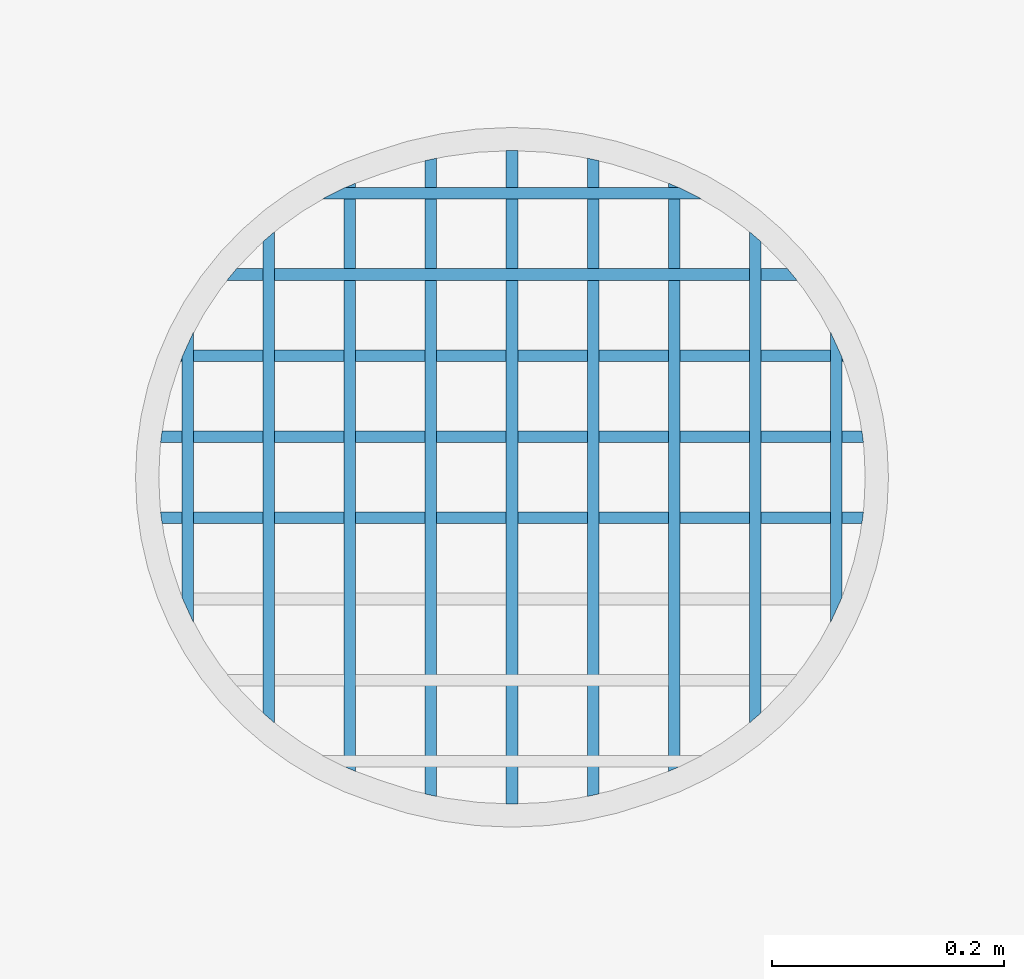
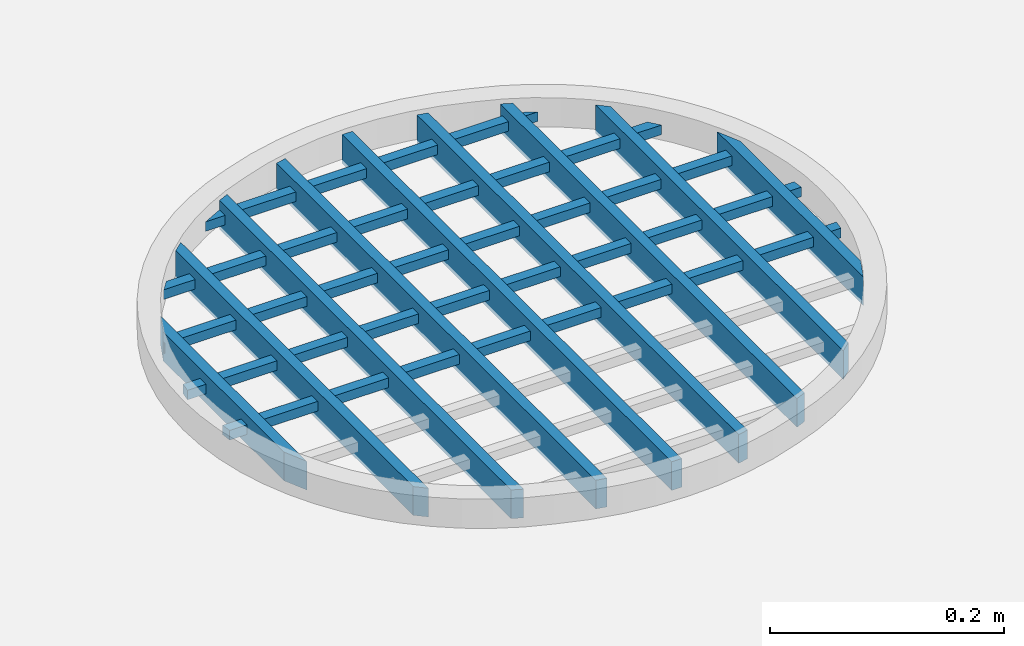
# One storey, part 41 of 133: 14 members, 1 element without a shape of its own.
"""IFC2X3 building model written with IfcOpenShell, lengths in centimetres."""

from ifc_helpers import new_model, entity, si_unit, converted_unit, direction, frame, origin, origin_with_axes, place, context, subcontext, project, spatial, faceted_brep, material, type_object, element, aggregate, save


model = new_model("IFC2X3")

# Units and contexts
model_context = context("Model", 3, precision=0.0001, world=origin(), true_north=direction((0.225632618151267, 0.974212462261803, 0.0)))
body_context = subcontext(model_context, "Body", "Model", "MODEL_VIEW")
ifc_project = project(units=[si_unit("LENGTHUNIT", "METRE", prefix="CENTI"), si_unit("AREAUNIT", "SQUARE_METRE", prefix="CENTI"), si_unit("VOLUMEUNIT", "CUBIC_METRE", prefix="CENTI"), converted_unit("PLANEANGLEUNIT", "DEGREE", entity("IfcRatioMeasure", 0.0174532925), si_unit("PLANEANGLEUNIT", "RADIAN"), dimensions=[0, 0, 0, 0, 0, 0, 0])], contexts=[model_context])

# Site, building, storey
site_placement = place(None, origin_with_axes())
site = spatial("IfcSite", under=ifc_project, at=site_placement, Name="Default Site", CompositionType="ELEMENT")
building_placement = place(site_placement, origin_with_axes())
building = spatial("IfcBuilding", under=site, at=building_placement, Name="Default Building", CompositionType="ELEMENT")
storey_placement = place(building_placement, frame((0.0, 0.0, -291.400371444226), z_axis=(0.0, 0.0, 1.0), x_axis=(1.0, 0.0, 0.0)))
storey = spatial("IfcBuildingStorey", under=building, at=storey_placement, Name="Rez-de-Jardin", CompositionType="ELEMENT", Elevation=-291.400371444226)

# Assembly, members
building_element_proxy_type = type_object("IfcBuildingElementProxyType", Name="Type Object", PredefinedType="NOTDEFINED")
assembly_placement = place(storey_placement, frame((507.608740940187, -1215.27016189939, 0.999999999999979), z_axis=(0.0, -1.0, -9.43689570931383e-16), x_axis=(1.0, 0.0, 0.0)))
assembly = element("IfcElementAssembly", 1, at=assembly_placement, inside=storey, type_object=building_element_proxy_type, Name="Panneau 294722", ObjectType="Precast panel", PredefinedType="USERDEFINED")
ifc_material = material(Name="Acier")
member_1_placement = place(assembly_placement, frame((62.8172218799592, 0.499999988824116, 33.1905782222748), z_axis=(0.9918400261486, -1.77089569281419e-21, 0.127488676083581), x_axis=(0.127488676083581, -9.35989088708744e-16, -0.9918400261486)))
member_1 = element("IfcMember", 2, at=member_1_placement, material=ifc_material, Name="4294966716", context=body_context, shape_type="Brep", body=[
    faceted_brep([(-3.88578058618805e-14, 2.10768902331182e-14, -1.11022302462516e-13), (-1.00822614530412, 2.0122792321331e-14, -1.90756864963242e-06), (-1.00822614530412, -0.999999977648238, -1.90756864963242e-06), (-3.88578058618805e-14, -0.999999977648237, -1.11022302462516e-13), (-7.73314044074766, -0.999999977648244, -60.1625058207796), (-8.70859222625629, -0.999999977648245, -59.9075268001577), (-8.70859222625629, 1.29236898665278e-14, -59.9075268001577), (-7.73314044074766, 1.38777878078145e-14, -60.1625058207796), (-1.00822614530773, -0.999999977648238, -1.11022302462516e-13), (-8.70859219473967, -0.999999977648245, -59.9075266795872), (-1.00822614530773, 2.0122792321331e-14, -1.10911723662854e-13), (-8.70859219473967, 1.29236898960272e-14, -59.9075266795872), (-1.00822614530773, 2.0122792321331e-14, -1.11022302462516e-13), (-3.88578058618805e-14, 2.10664809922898e-14, -1.11022302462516e-13), (-7.73314044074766, 1.38282393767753e-14, -60.1625058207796), (-8.70859219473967, 1.29152276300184e-14, -59.9075266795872), (-3.7937029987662e-14, -0.999999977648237, -1.11140656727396e-13)], [[[0, 1, 2, 3]], [[4, 5, 6, 7]], [[3, 8, 9, 4]], [[8, 10, 11, 9]], [[12, 13, 14, 15]], [[0, 16, 4, 7]]]),
])
member_2_placement = place(assembly_placement, frame((62.688684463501, 0.499999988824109, 26.1905789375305), z_axis=(0.9918400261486, 1.77089569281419e-21, -0.127488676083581), x_axis=(-0.127488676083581, -9.35989088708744e-16, -0.9918400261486)))
member_2 = element("IfcMember", 3, at=member_2_placement, material=ifc_material, Name="4294966715", context=body_context, shape_type="Brep", body=[
    faceted_brep([(-1.38777878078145e-13, 1.25767452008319e-14, -1.11022302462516e-13), (-1.00822614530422, 1.17093834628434e-14, 1.90756842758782e-06), (-1.00822614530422, -0.999999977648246, 1.90756842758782e-06), (-1.38777878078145e-13, -0.999999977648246, -1.11022302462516e-13), (7.7003660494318, -0.999999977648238, -59.9075266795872), (6.72491426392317, -0.999999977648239, -60.1625057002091), (6.72491426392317, 1.89084858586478e-14, -60.1625057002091), (7.7003660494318, 1.98625837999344e-14, -59.9075266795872), (-1.00822614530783, -0.999999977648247, -1.11022302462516e-13), (6.72491429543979, -0.999999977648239, -60.1625058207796), (-1.00822614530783, -0.999999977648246, -1.11022302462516e-13), (-1.00822614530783, 1.17093834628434e-14, -1.11132881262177e-13), (6.72491429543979, 1.89084858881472e-14, -60.1625058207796), (-1.00822614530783, 1.17093834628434e-14, -1.11022302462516e-13), (-1.38777878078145e-13, 1.26530721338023e-14, -1.11022302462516e-13), (7.7003660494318, 1.98606368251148e-14, -59.9075266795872), (6.72491429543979, 1.8947625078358e-14, -60.1625058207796), (-1.37857102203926e-13, -0.999999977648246, -1.10903948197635e-13)], [[[0, 1, 2, 3]], [[4, 5, 6, 7]], [[3, 8, 9, 4]], [[10, 11, 12, 9]], [[13, 14, 15, 16]], [[0, 17, 4, 7]]]),
])
member_3_placement = place(assembly_placement, frame((60.6826722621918, 0.499999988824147, 19.1905781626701), z_axis=(0.923966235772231, -2.24053122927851e-21, -0.382474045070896), x_axis=(-0.382474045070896, -8.71937300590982e-16, -0.923966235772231)))
member_3 = element("IfcMember", 4, at=member_3_placement, material=ifc_material, Name="4294966714", context=body_context, shape_type="Brep", body=[
    faceted_brep([(-1.11022302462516e-14, -3.57353036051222e-14, -6.66133814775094e-14), (-1.08229121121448, -3.66026653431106e-14, -2.78105698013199e-06), (-1.08229121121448, -0.999999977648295, -2.78105698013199e-06), (-1.11022302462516e-14, -0.999999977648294, -6.66133814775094e-14), (21.5670882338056, -0.999999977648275, -52.100950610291), (20.8014449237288, -0.999999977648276, -52.8658962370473), (20.8014449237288, -1.75207069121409e-14, -52.8658962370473), (21.5670882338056, -1.69135538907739e-14, -52.100950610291), (-1.08229121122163, -0.999999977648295, -6.10622663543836e-14), (20.8014446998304, -0.999999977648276, -52.8658960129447), (-1.08229121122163, -3.66026653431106e-14, -6.13940097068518e-14), (20.8014446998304, -1.75207071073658e-14, -52.8658960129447), (-1.08229121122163, -3.66026653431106e-14, -6.10622663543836e-14), (-1.11022302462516e-14, -3.56589752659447e-14, -6.66133814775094e-14), (21.5670882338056, -1.68539433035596e-14, -52.100950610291), (20.8014446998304, -1.7521538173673e-14, -52.8658960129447), (-1.03578447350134e-14, -0.999999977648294, -6.63052445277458e-14)], [[[0, 1, 2, 3]], [[4, 5, 6, 7]], [[3, 8, 9, 4]], [[8, 10, 11, 9]], [[12, 13, 14, 15]], [[0, 16, 4, 7]]]),
])
member_4_placement = place(assembly_placement, frame((56.2625527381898, 0.499999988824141, 12.1905788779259), z_axis=(0.770489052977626, -4.09272957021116e-22, -0.637453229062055), x_axis=(-0.637453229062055, -7.27102483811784e-16, -0.770489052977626)))
member_4 = element("IfcMember", 5, at=member_4_placement, material=ifc_material, Name="4294966713", context=body_context, shape_type="Brep", body=[
    faceted_brep([(2.66453525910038e-13, -3.27862736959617e-14, 2.05391259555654e-13), (-1.29787766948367, -3.37403716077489e-14, -7.30551874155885e-07), (-1.29787766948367, -0.999999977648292, -7.30551874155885e-07), (2.66453525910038e-13, -0.999999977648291, 2.05391259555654e-13), (30.3097076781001, -0.999999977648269, -36.6353120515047), (30.066605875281, -0.999999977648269, -37.910218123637), (30.066605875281, -1.09287576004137e-14, -37.910218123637), (30.3097076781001, -1.07552855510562e-14, -36.6353120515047), (-1.29787766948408, -0.999999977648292, 2.05391259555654e-13), (30.0666054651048, -0.999999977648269, -37.9102180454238), (-1.29787766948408, -3.37403716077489e-14, 2.05059518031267e-13), (30.0666054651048, -1.09287578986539e-14, -37.9102180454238), (-1.29787766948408, -3.37403716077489e-14, 2.05391259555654e-13), (2.66453525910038e-13, -3.2796681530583e-14, 2.05391259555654e-13), (30.3097076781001, -1.075843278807e-14, -36.6353120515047), (30.0666054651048, -1.09351935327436e-14, -37.9102180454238), (2.66885172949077e-13, -0.999999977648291, 2.05748376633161e-13)], [[[0, 1, 2, 3]], [[4, 5, 6, 7]], [[3, 8, 9, 4]], [[8, 10, 11, 9]], [[12, 13, 14, 15]], [[0, 16, 4, 7]]]),
])
member_5_placement = place(assembly_placement, frame((46.9211578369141, 0.499999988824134, 5.19057884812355), z_axis=(0.451178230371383, 2.8596710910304e-23, -0.892433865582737), x_axis=(-0.892433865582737, -4.25772190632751e-16, -0.451178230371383)))
member_5 = element("IfcMember", 6, at=member_5_placement, material=ifc_material, Name="4294966712", context=body_context, shape_type="Brep", body=[
    faceted_brep([(2.05391259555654e-13, 2.56739074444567e-14, 2.1094237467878e-13), (-2.2164185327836, 2.47198095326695e-14, 1.48864511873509e-07), (-2.2164185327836, -0.999999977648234, 1.48864511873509e-07), (2.05391259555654e-13, -0.999999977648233, 2.1094237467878e-13), (25.7604072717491, -0.999999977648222, -13.0234131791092), (27.0744704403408, -0.999999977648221, -14.8082815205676), (27.0744704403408, 3.72098183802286e-14, -14.8082815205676), (25.7604072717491, 3.66026653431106e-14, -13.0234131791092), (-2.21641853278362, -0.999999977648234, 2.1094237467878e-13), (27.0744708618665, -0.999999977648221, -14.8082812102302), (-2.21641853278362, 2.47198095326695e-14, 2.10787562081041e-13), (27.0744708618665, 3.72098185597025e-14, -14.8082812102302), (-2.21641853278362, 2.47198095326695e-14, 2.1094237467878e-13), (2.05391259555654e-13, 2.56634989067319e-14, 2.1094237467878e-13), (25.7604072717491, 3.66315643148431e-14, -13.0234131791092), (27.0744708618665, 3.71910560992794e-14, -14.8082812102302), (2.05477930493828e-13, -0.999999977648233, 2.11113810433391e-13)], [[[0, 1, 2, 3]], [[4, 5, 6, 7]], [[3, 8, 9, 4]], [[8, 10, 11, 9]], [[12, 13, 14, 15]], [[0, 16, 4, 7]]]),
])
member_6_placement = place(assembly_placement, frame((4.98848780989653, 1.49999996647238, 42.7045464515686), z_axis=(-0.909354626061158, 5.26300108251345e-23, 0.416021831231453), x_axis=(0.416021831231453, 8.58148476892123e-16, 0.909354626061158)))
member_6 = element("IfcMember", 7, at=member_6_placement, material=ifc_material, Name="4294966711", context=body_context, shape_type="Brep", body=[
    faceted_brep([(-5.55111512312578e-14, 9.0205620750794e-15, 9.43689570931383e-14), (-2.40371950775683, 1.11022302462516e-14, -1.47419363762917e-07), (-2.40371950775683, -2.99999993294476, -1.47419363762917e-07), (-5.55111512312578e-14, -2.99999993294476, 9.43689570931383e-14), (-22.7592700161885, -2.99999993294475, -10.4121680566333), (-21.187592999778, -2.99999993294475, -8.59345825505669), (-21.187592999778, 2.70616865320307e-14, -8.5934582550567), (-22.7592700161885, 2.84494650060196e-14, -10.4121680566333), (-2.40371950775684, -2.99999993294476, 9.43689570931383e-14), (-21.1875926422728, -2.99999993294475, -8.59345856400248), (-2.40371950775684, 1.11022302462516e-14, 9.34224698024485e-14), (-21.1875926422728, 2.70616862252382e-14, -8.59345856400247), (-21.1875926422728, -2.99999993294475, -8.59345856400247), (-2.40371950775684, 1.11022302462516e-14, 9.43689570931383e-14), (-5.55111512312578e-14, 9.0394820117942e-15, 9.43689570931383e-14), (-22.7592700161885, 2.85703154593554e-14, -10.4121680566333), (-21.1875926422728, 2.72215828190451e-14, -8.59345856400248), (-5.59567211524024e-14, -2.99999993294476, 9.53428989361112e-14)], [[[0, 1, 2, 3]], [[4, 5, 6, 7]], [[3, 8, 9, 4]], [[8, 10, 11, 12]], [[13, 14, 15, 16]], [[0, 17, 4, 7]]]),
])
member_7_placement = place(assembly_placement, frame((11.9884878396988, 1.49999996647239, 51.382452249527), z_axis=(-0.654373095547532, 3.52893669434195e-22, 0.756171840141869), x_axis=(0.756171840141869, 6.17525065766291e-16, 0.654373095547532)))
member_7 = element("IfcMember", 8, at=member_7_placement, material=ifc_material, Name="4294966710", context=body_context, shape_type="Brep", body=[
    faceted_brep([(-1.77635683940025e-13, 1.83880688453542e-14, 1.55431223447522e-13), (-1.32245045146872, 1.92554305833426e-14, -7.557333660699e-07), (-1.32245045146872, -2.99999993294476, -7.557333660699e-07), (-1.77635683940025e-13, -2.99999993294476, 1.55431223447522e-13), (-27.7347840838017, -2.99999993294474, -32.0493963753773), (-27.9246763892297, -2.99999993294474, -30.7406493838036), (-27.9246763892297, 3.55618314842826e-14, -30.7406493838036), (-27.7347840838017, 3.55618312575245e-14, -32.0493963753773), (-1.32245045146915, -2.99999993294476, 1.55431223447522e-13), (-27.924676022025, -2.99999993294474, -30.7406493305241), (-1.32245045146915, 1.92554305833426e-14, 1.54523098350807e-13), (-27.924676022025, 3.55618312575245e-14, -30.7406493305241), (-1.32245045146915, 1.92554305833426e-14, 1.55431223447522e-13), (-1.77635683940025e-13, 1.84387842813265e-14, 1.55431223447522e-13), (-27.7347840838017, 3.5565719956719e-14, -32.0493963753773), (-27.924676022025, 3.56829825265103e-14, -30.7406493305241), (-1.786949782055e-13, -2.99999993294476, 1.56347911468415e-13)], [[[0, 1, 2, 3]], [[4, 5, 6, 7]], [[3, 8, 9, 4]], [[8, 10, 11, 9]], [[12, 13, 14, 15]], [[0, 16, 4, 7]]]),
])
member_8_placement = place(assembly_placement, frame((18.9884871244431, 1.4999999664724, 55.5767774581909), z_axis=(-0.399390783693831, 6.76952387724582e-22, 0.91678078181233), x_axis=(0.91678078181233, 3.7690091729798e-16, 0.399390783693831)))
member_8 = element("IfcMember", 9, at=member_8_placement, material=ifc_material, Name="4294966709", context=body_context, shape_type="Brep", body=[
    faceted_brep([(4.44089209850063e-14, -1.50920942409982e-14, -7.21644966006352e-14), (-1.09077226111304, -1.47451495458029e-14, -1.95913801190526e-06), (-1.09077226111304, -2.99999993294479, -1.95913801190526e-06), (4.44089209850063e-14, -2.99999993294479, -7.21644966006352e-14), (-20.2780278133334, -2.99999993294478, -46.5471587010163), (-21.0208146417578, -2.99999993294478, -45.7483757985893), (-21.0208146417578, -7.11236613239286e-15, -45.7483757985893), (-20.2780278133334, -7.45931094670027e-15, -46.5471587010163), (-1.09077226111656, -2.99999993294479, -6.10622663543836e-14), (-21.0208143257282, -2.99999993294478, -45.7483755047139), (-1.09077226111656, -1.47451495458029e-14, -6.14779658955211e-14), (-21.0208143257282, -7.11236625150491e-15, -45.7483755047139), (-1.09077226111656, -1.47451495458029e-14, -6.10622663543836e-14), (4.44089209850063e-14, -1.51562626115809e-14, -7.21644966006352e-14), (-20.2780278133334, -7.51342381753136e-15, -46.5471587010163), (-21.0208143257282, -7.23346744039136e-15, -45.7483755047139), (4.34585807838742e-14, -2.99999993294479, -7.17504858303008e-14)], [[[0, 1, 2, 3]], [[4, 5, 6, 7]], [[3, 8, 9, 4]], [[8, 10, 11, 9]], [[12, 13, 14, 15]], [[0, 16, 4, 7]]]),
])
member_9_placement = place(assembly_placement, frame((25.9884864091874, 1.4999999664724, 57.7345788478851), z_axis=(-0.213462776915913, 2.57128649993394e-23, 0.97695119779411), x_axis=(0.97695119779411, 2.01442596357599e-16, 0.213462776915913)))
member_9 = element("IfcMember", 10, at=member_9_placement, material=ifc_material, Name="4294966708", context=body_context, shape_type="Brep", body=[
    faceted_brep([(-3.33066907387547e-14, -7.97972798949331e-15, 1.33226762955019e-13), (-1.02359160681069, -7.80625564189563e-15, -1.30654818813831e-07), (-1.02359160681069, -2.99999993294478, -1.30654818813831e-07), (-3.33066907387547e-14, -2.99999993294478, 1.33226762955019e-13), (-11.7592369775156, -2.99999993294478, -53.8182853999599), (-12.6895459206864, -2.99999993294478, -53.3913601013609), (-12.6895459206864, -5.37764275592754e-15, -53.3913601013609), (-11.7592369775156, -5.55111512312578e-15, -53.8182853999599), (-1.0235916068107, -2.99999993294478, 1.22124532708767e-13), (-12.6895458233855, -2.99999993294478, -53.3913598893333), (-1.0235916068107, -7.80625564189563e-15, 1.22013443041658e-13), (-12.6895458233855, -5.3776427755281e-15, -53.3913598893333), (-1.0235916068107, -7.80625564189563e-15, 1.22124532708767e-13), (-3.33066907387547e-14, -8.01245059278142e-15, 1.33226762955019e-13), (-11.7592369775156, -5.6436379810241e-15, -53.8182853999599), (-12.6895458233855, -5.4562341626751e-15, -53.3913598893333), (-3.38834814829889e-14, -2.99999993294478, 1.33352791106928e-13)], [[[0, 1, 2, 3]], [[4, 5, 6, 7]], [[3, 8, 9, 4]], [[8, 10, 11, 9]], [[12, 13, 14, 15]], [[0, 16, 4, 7]]]),
])
member_10_placement = place(assembly_placement, frame((32.9884886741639, 1.4999999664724, 58.3811581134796), z_axis=(0.0, 0.0, 1.0), x_axis=(1.0, 0.0, 0.0)))
member_10 = element("IfcMember", 11, at=member_10_placement, material=ifc_material, Name="4294966707", context=body_context, shape_type="Brep", body=[
    faceted_brep([(-8.88178419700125e-14, 0.0, 0.0), (-1.00000202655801, 0.0, -1.11022527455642e-14), (-1.00000202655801, -2.99999993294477, -1.11022527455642e-14), (-8.88178419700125e-14, -2.99999993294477, 0.0), (-8.88178419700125e-14, -2.99999993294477, -56.3811581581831), (-1.00000202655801, -2.99999993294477, -56.3811581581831), (-1.00000202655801, 0.0, -56.3811581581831), (-8.88178419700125e-14, 0.0, -56.3811581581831), (-1.00000202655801, -2.99999993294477, 0.0), (-1.00000202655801, 0.0, 0.0), (-1.00000202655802, 0.0, -56.3811581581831), (-1.00000202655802, -2.99999993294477, -56.3811581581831), (-9.43689571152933e-14, -2.99999993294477, -56.3811581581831), (-9.43689571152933e-14, 0.0, -56.3811581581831)], [[[0, 1, 2, 3]], [[4, 5, 6, 7]], [[3, 8, 5, 4]], [[8, 9, 10, 11]], [[9, 0, 7, 6]], [[0, 3, 12, 13]]]),
])
member_11_placement = place(assembly_placement, frame((39.9884879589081, 1.4999999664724, 57.5160801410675), z_axis=(0.213462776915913, 2.57128649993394e-23, 0.97695119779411), x_axis=(0.97695119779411, -2.01442596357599e-16, -0.213462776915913)))
member_11 = element("IfcMember", 12, at=member_11_placement, material=ifc_material, Name="4294966706", context=body_context, shape_type="Brep", body=[
    faceted_brep([(-6.10622663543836e-14, 5.03069808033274e-15, 2.77555756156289e-13), (-1.02359160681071, 4.85722573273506e-15, 1.30655229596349e-07), (-1.02359160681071, -2.99999993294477, 1.30655229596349e-07), (-6.10622663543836e-14, -2.99999993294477, 2.77555756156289e-13), (11.6659542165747, -2.99999993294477, -53.3913598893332), (10.7356452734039, -2.99999993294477, -53.8182851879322), (10.7356452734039, 7.28583857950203e-15, -53.8182851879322), (11.6659542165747, 7.45931094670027e-15, -53.3913598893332), (-1.02359160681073, -2.99999993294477, 2.77555756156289e-13), (10.7356453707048, -2.99999993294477, -53.8182853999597), (-1.02359160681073, 4.85722573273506e-15, 2.7744466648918e-13), (10.7356453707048, 7.28583859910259e-15, -53.8182853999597), (-1.02359160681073, 4.85722573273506e-15, 2.77555756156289e-13), (-6.10622663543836e-14, 5.06342068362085e-15, 2.77555756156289e-13), (11.6659542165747, 7.41344216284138e-15, -53.3913598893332), (10.7356453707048, 7.22603834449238e-15, -53.8182853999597), (-6.04854756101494e-14, -2.99999993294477, 2.77681784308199e-13)], [[[0, 1, 2, 3]], [[4, 5, 6, 7]], [[3, 8, 9, 4]], [[8, 10, 11, 9]], [[12, 13, 14, 15]], [[0, 16, 4, 7]]]),
])
member_12_placement = place(assembly_placement, frame((46.9884872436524, 1.49999996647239, 55.1411330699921), z_axis=(0.399390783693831, 6.76952387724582e-22, 0.91678078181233), x_axis=(0.91678078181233, -3.7690091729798e-16, -0.399390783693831)))
member_12 = element("IfcMember", 13, at=member_12_placement, material=ifc_material, Name="4294966705", context=body_context, shape_type="Brep", body=[
    faceted_brep([(-1.36002320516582e-13, -3.66026653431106e-14, -2.22044604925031e-13), (-1.09077226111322, -3.71230823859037e-14, 1.95913771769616e-06), (-1.09077226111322, -2.99999993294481, 1.95913771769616e-06), (-1.36002320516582e-13, -2.99999993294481, -2.22044604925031e-13), (19.9300420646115, -2.9999999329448, -45.7483755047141), (19.1872552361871, -2.9999999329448, -46.5471584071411), (19.1872552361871, -2.94902992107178e-14, -46.5471584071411), (19.9300420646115, -2.91433543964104e-14, -45.7483755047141), (-1.09077226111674, -2.99999993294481, -2.33146835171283e-13), (19.1872555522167, -2.9999999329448, -46.5471587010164), (-1.09077226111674, -3.71230823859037e-14, -2.3356253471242e-13), (19.1872555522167, -2.94902990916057e-14, -46.5471587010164), (-1.09077226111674, -3.71230823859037e-14, -2.33146835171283e-13), (-1.36002320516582e-13, -3.67119693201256e-14, -2.22044604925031e-13), (19.9300420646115, -2.92002872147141e-14, -45.7483755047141), (19.1872555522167, -2.94802435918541e-14, -46.5471587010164), (-1.3505198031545e-13, -2.99999993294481, -2.21630594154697e-13)], [[[0, 1, 2, 3]], [[4, 5, 6, 7]], [[3, 8, 9, 4]], [[8, 10, 11, 9]], [[12, 13, 14, 15]], [[0, 16, 4, 7]]]),
])
member_13_placement = place(assembly_placement, frame((53.9884865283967, 1.49999996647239, 50.517076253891), z_axis=(0.654373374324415, 1.25231527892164e-22, 0.756171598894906), x_axis=(0.756171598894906, -6.17525328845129e-16, -0.654373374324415)))
member_13 = element("IfcMember", 14, at=member_13_placement, material=ifc_material, Name="4294966704", context=body_context, shape_type="Brep", body=[
    faceted_brep([(-2.73392419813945e-13, -3.98986399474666e-14, -6.66133814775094e-14), (-1.32244988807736, -4.0766001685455e-14, 2.6818718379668e-07), (-1.32244988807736, -2.99999993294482, 2.6818718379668e-07), (-2.70616862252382e-13, -2.99999993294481, -6.66133820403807e-14), (26.6022369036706, -2.9999999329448, -30.740639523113), (26.4123451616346, -2.9999999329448, -32.0493860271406), (26.4123451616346, -2.3592239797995e-14, -32.0493860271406), (26.6022369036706, -2.35922392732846e-14, -30.740639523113), (-2.70616862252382e-13, -2.99999993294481, -6.66133814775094e-14), (-1.32244988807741, -2.99999993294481, -6.66133814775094e-14), (26.4123460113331, -2.9999999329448, -32.0493861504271), (-1.32244988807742, -4.0766001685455e-14, -6.61593187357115e-14), (26.4123460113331, -2.35922392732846e-14, -32.0493861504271), (-1.32244988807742, -4.0766001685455e-14, -6.66133814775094e-14), (-2.73392419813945e-13, -3.99493553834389e-14, -6.66133814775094e-14), (26.6022369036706, -2.35217964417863e-14, -30.740639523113), (26.4123460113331, -2.36390587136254e-14, -32.0493861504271), (-2.71144619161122e-13, -2.99999993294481, -6.70700900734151e-14), (26.6022369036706, -2.9999999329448, -30.740639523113)], [[[0, 1, 2, 3]], [[4, 5, 6, 7]], [[8, 9, 10, 4]], [[9, 11, 12, 10]], [[13, 14, 15, 16]], [[0, 17, 18, 7]]]),
])
member_14_placement = place(assembly_placement, frame((60.9884858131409, 1.49999996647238, 40.5187129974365), z_axis=(0.909354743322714, -1.89251206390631e-22, 0.416021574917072), x_axis=(0.416021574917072, -8.5814858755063e-16, -0.909354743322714)))
member_14 = element("IfcMember", 15, at=member_14_placement, material=ifc_material, Name="4294966703", context=body_context, shape_type="Brep", body=[
    faceted_brep([(4.30211422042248e-14, -1.02348685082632e-14, -8.88178419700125e-14), (-2.4037191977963, -1.23165366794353e-14, -5.30102642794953e-07), (-2.4037191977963, -2.99999993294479, -5.30102642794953e-07), (4.57966997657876e-14, -2.99999993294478, -8.88178413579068e-14), (18.7838755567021, -2.99999993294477, -8.59345326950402), (20.3555528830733, -2.99999993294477, -10.4121623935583), (20.3555528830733, 7.28583785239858e-15, -10.4121623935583), (18.7838755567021, 5.89805981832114e-15, -8.59345326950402), (4.57966997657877e-14, -2.99999993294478, -8.88178419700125e-14), (-2.40371919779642, -2.99999993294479, -8.88178419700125e-14), (20.3555537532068, -2.99999993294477, -10.4121616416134), (-2.40371919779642, -1.23165366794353e-14, -8.97643293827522e-14), (20.3555537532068, 7.28583859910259e-15, -10.4121616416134), (-2.40371919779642, -1.23165366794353e-14, -8.88178419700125e-14), (4.30211422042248e-14, -1.0253788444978e-14, -8.88178419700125e-14), (18.7838755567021, 5.86556620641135e-15, -8.59345326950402), (20.3555537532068, 7.21429928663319e-15, -10.4121616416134), (4.57618927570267e-14, -2.99999993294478, -8.88939243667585e-14), (18.7838755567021, -2.99999993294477, -8.59345326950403), (18.7838755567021, 5.89805981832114e-15, -8.59345326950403)], [[[0, 1, 2, 3]], [[4, 5, 6, 7]], [[8, 9, 10, 4]], [[9, 11, 12, 10]], [[13, 14, 15, 16]], [[0, 17, 18, 19]]]),
])
aggregate(assembly, [member_1, member_2, member_3, member_4, member_5, member_6, member_7, member_8, member_9, member_10, member_11, member_12, member_13, member_14])

save(model, "model.ifc")
